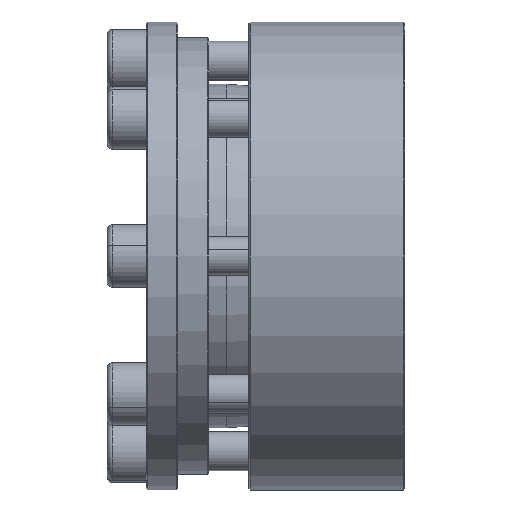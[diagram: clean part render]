
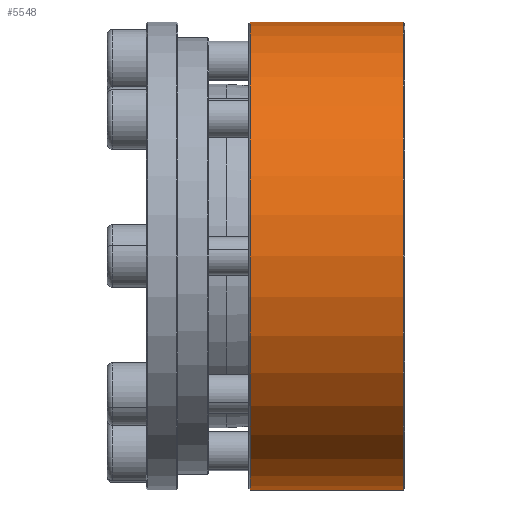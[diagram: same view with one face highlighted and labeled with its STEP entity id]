
A CAD part, front view. The second image highlights one B-rep face of the part: STEP entity #5548.
In plain terms, the highlighted cylindrical face has radius 59.94 mm (diameter 119.88 mm), a partial arc.
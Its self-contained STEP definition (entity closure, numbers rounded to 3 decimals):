
#96 = AXIS2_PLACEMENT_3D ( 'NONE', #280, #2992, #5794 ) ;
#280 = CARTESIAN_POINT ( 'NONE',  ( -39.981, 26.04, 0. ) ) ;
#281 = EDGE_CURVE ( 'NONE', #7098, #4553, #3919, .T. ) ;
#519 = LINE ( 'NONE', #8024, #802 ) ;
#802 = VECTOR ( 'NONE', #8592, 1000. ) ;
#948 = CIRCLE ( 'NONE', #8650, 59.94 ) ;
#1232 = DIRECTION ( 'NONE',  ( 0., 0., -1. ) ) ;
#1954 = DIRECTION ( 'NONE',  ( -1., 0., 0. ) ) ;
#1996 = CARTESIAN_POINT ( 'NONE',  ( -79.581, 26.04, 0. ) ) ;
#2807 = DIRECTION ( 'NONE',  ( -1., 0., 0. ) ) ;
#2808 = EDGE_LOOP ( 'NONE', ( #7887, #7382, #4524, #7517 ) ) ;
#2992 = DIRECTION ( 'NONE',  ( -1., 0., 0. ) ) ;
#3294 = VERTEX_POINT ( 'NONE', #4713 ) ;
#3426 = CYLINDRICAL_SURFACE ( 'NONE', #3886, 59.94 ) ;
#3886 = AXIS2_PLACEMENT_3D ( 'NONE', #1996, #2807, #4726 ) ;
#3919 = LINE ( 'NONE', #8093, #7495 ) ;
#4524 = ORIENTED_EDGE ( 'NONE', *, *, #7388, .T. ) ;
#4553 = VERTEX_POINT ( 'NONE', #6550 ) ;
#4713 = CARTESIAN_POINT ( 'NONE',  ( -79.181, 26.04, 59.94 ) ) ;
#4717 = CARTESIAN_POINT ( 'NONE',  ( -79.181, 26.04, 0. ) ) ;
#4726 = DIRECTION ( 'NONE',  ( 0., 0., 1. ) ) ;
#5527 = VERTEX_POINT ( 'NONE', #7518 ) ;
#5548 = ADVANCED_FACE ( 'NONE', ( #6217 ), #3426, .T. ) ;
#5794 = DIRECTION ( 'NONE',  ( 0., 0., 1. ) ) ;
#6217 = FACE_OUTER_BOUND ( 'NONE', #2808, .T. ) ;
#6550 = CARTESIAN_POINT ( 'NONE',  ( -79.181, 26.04, -59.94 ) ) ;
#6823 = CARTESIAN_POINT ( 'NONE',  ( -39.981, 26.04, -59.94 ) ) ;
#7098 = VERTEX_POINT ( 'NONE', #6823 ) ;
#7368 = DIRECTION ( 'NONE',  ( 1., 0., 0. ) ) ;
#7382 = ORIENTED_EDGE ( 'NONE', *, *, #7629, .T. ) ;
#7388 = EDGE_CURVE ( 'NONE', #5527, #3294, #519, .T. ) ;
#7495 = VECTOR ( 'NONE', #1954, 1000. ) ;
#7517 = ORIENTED_EDGE ( 'NONE', *, *, #8325, .T. ) ;
#7518 = CARTESIAN_POINT ( 'NONE',  ( -39.981, 26.04, 59.94 ) ) ;
#7629 = EDGE_CURVE ( 'NONE', #7098, #5527, #7800, .T. ) ;
#7800 = CIRCLE ( 'NONE', #96, 59.94 ) ;
#7887 = ORIENTED_EDGE ( 'NONE', *, *, #281, .F. ) ;
#8024 = CARTESIAN_POINT ( 'NONE',  ( -79.581, 26.04, 59.94 ) ) ;
#8093 = CARTESIAN_POINT ( 'NONE',  ( -79.581, 26.04, -59.94 ) ) ;
#8325 = EDGE_CURVE ( 'NONE', #3294, #4553, #948, .T. ) ;
#8592 = DIRECTION ( 'NONE',  ( -1., 0., 0. ) ) ;
#8650 = AXIS2_PLACEMENT_3D ( 'NONE', #4717, #7368, #1232 ) ;
